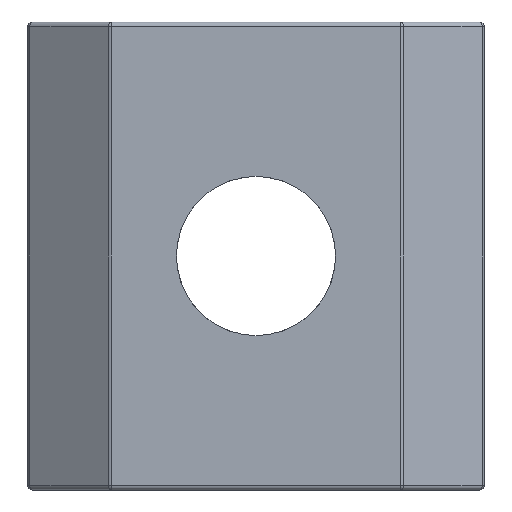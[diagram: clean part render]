
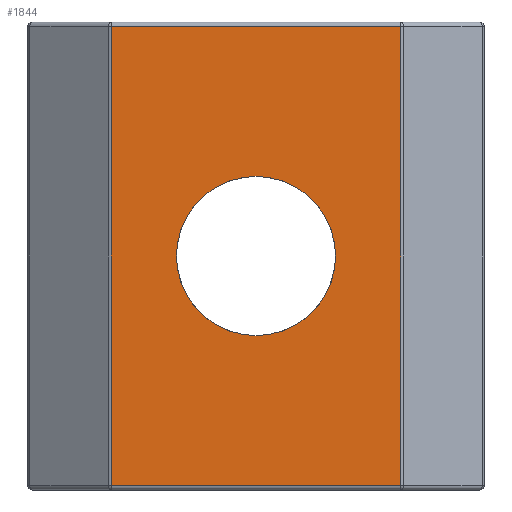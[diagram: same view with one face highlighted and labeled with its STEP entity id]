
A CAD part, front view. The second image highlights one B-rep face of the part: STEP entity #1844.
In plain terms, the highlighted planar face has unit normal (0, -1, 0).
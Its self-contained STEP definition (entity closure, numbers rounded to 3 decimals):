
#11 = EDGE_CURVE ( 'NONE', #557, #1945, #1215, .T. ) ;
#37 = CARTESIAN_POINT ( 'NONE',  ( -6.25, 0., 9.8 ) ) ;
#43 = CARTESIAN_POINT ( 'NONE',  ( 0., 0., 0. ) ) ;
#52 = EDGE_CURVE ( 'NONE', #1945, #1890, #1190, .T. ) ;
#66 = EDGE_CURVE ( 'NONE', #1823, #1934, #1183, .T. ) ;
#88 = CARTESIAN_POINT ( 'NONE',  ( 6.186, 0., 10. ) ) ;
#103 = CARTESIAN_POINT ( 'NONE',  ( 6.25, 0., -9.8 ) ) ;
#105 = ORIENTED_EDGE ( 'NONE', *, *, #52, .T. ) ;
#123 = CARTESIAN_POINT ( 'NONE',  ( -6.186, 0., 10. ) ) ;
#219 = DIRECTION ( 'NONE',  ( 0., 0., 1. ) ) ;
#235 = CIRCLE ( 'NONE', #1683, 3.4 ) ;
#243 = CARTESIAN_POINT ( 'NONE',  ( 6.186, 0., -9.8 ) ) ;
#301 = CARTESIAN_POINT ( 'NONE',  ( -6.186, 0., -9.8 ) ) ;
#508 = EDGE_LOOP ( 'NONE', ( #1927, #1373, #731, #105 ) ) ;
#557 = VERTEX_POINT ( 'NONE', #243 ) ;
#598 = DIRECTION ( 'NONE',  ( 0., 1., 0. ) ) ;
#639 = AXIS2_PLACEMENT_3D ( 'NONE', #43, #1111, #219 ) ;
#661 = VECTOR ( 'NONE', #1174, 1000. ) ;
#663 = LINE ( 'NONE', #123, #661 ) ;
#731 = ORIENTED_EDGE ( 'NONE', *, *, #11, .T. ) ;
#759 = VECTOR ( 'NONE', #1583, 1000. ) ;
#782 = LINE ( 'NONE', #103, #759 ) ;
#881 = ORIENTED_EDGE ( 'NONE', *, *, #1533, .T. ) ;
#886 = EDGE_CURVE ( 'NONE', #1396, #557, #782, .T. ) ;
#892 = DIRECTION ( 'NONE',  ( 0., 0., 1. ) ) ;
#903 = CARTESIAN_POINT ( 'NONE',  ( -6.186, 0., 9.8 ) ) ;
#979 = DIRECTION ( 'NONE',  ( -1., 0., 0. ) ) ;
#1006 = EDGE_CURVE ( 'NONE', #1890, #1396, #663, .T. ) ;
#1023 = DIRECTION ( 'NONE',  ( 0., 0., 1. ) ) ;
#1111 = DIRECTION ( 'NONE',  ( 0., 1., 0. ) ) ;
#1174 = DIRECTION ( 'NONE',  ( 0., 0., -1. ) ) ;
#1183 = CIRCLE ( 'NONE', #639, 3.4 ) ;
#1190 = LINE ( 'NONE', #37, #1207 ) ;
#1207 = VECTOR ( 'NONE', #979, 1000. ) ;
#1214 = VECTOR ( 'NONE', #1023, 1000. ) ;
#1215 = LINE ( 'NONE', #88, #1214 ) ;
#1324 = AXIS2_PLACEMENT_3D ( 'NONE', #1571, #1722, #892 ) ;
#1373 = ORIENTED_EDGE ( 'NONE', *, *, #886, .T. ) ;
#1396 = VERTEX_POINT ( 'NONE', #301 ) ;
#1444 = CARTESIAN_POINT ( 'NONE',  ( 0., 0., 0. ) ) ;
#1501 = ORIENTED_EDGE ( 'NONE', *, *, #66, .T. ) ;
#1533 = EDGE_CURVE ( 'NONE', #1934, #1823, #235, .T. ) ;
#1555 = CARTESIAN_POINT ( 'NONE',  ( 0., 0., 3.4 ) ) ;
#1571 = CARTESIAN_POINT ( 'NONE',  ( -6.25, 0., 10. ) ) ;
#1583 = DIRECTION ( 'NONE',  ( 1., 0., 0. ) ) ;
#1602 = DIRECTION ( 'NONE',  ( 0., 0., 1. ) ) ;
#1647 = EDGE_LOOP ( 'NONE', ( #1501, #881 ) ) ;
#1683 = AXIS2_PLACEMENT_3D ( 'NONE', #1444, #598, #1602 ) ;
#1722 = DIRECTION ( 'NONE',  ( 0., 1., 0. ) ) ;
#1725 = PLANE ( 'NONE',  #1324 ) ;
#1743 = CARTESIAN_POINT ( 'NONE',  ( 0., 0., -3.4 ) ) ;
#1783 = CARTESIAN_POINT ( 'NONE',  ( 6.186, 0., 9.8 ) ) ;
#1823 = VERTEX_POINT ( 'NONE', #1555 ) ;
#1844 = ADVANCED_FACE ( 'NONE', ( #1962, #1940 ), #1725, .F. ) ;
#1890 = VERTEX_POINT ( 'NONE', #903 ) ;
#1927 = ORIENTED_EDGE ( 'NONE', *, *, #1006, .T. ) ;
#1934 = VERTEX_POINT ( 'NONE', #1743 ) ;
#1940 = FACE_BOUND ( 'NONE', #1647, .T. ) ;
#1945 = VERTEX_POINT ( 'NONE', #1783 ) ;
#1962 = FACE_OUTER_BOUND ( 'NONE', #508, .T. ) ;
